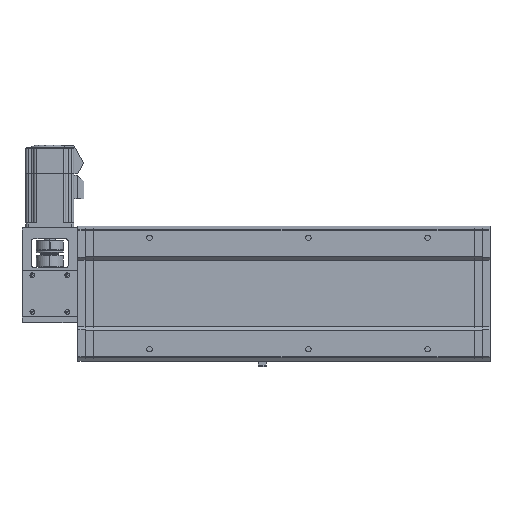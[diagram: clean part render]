
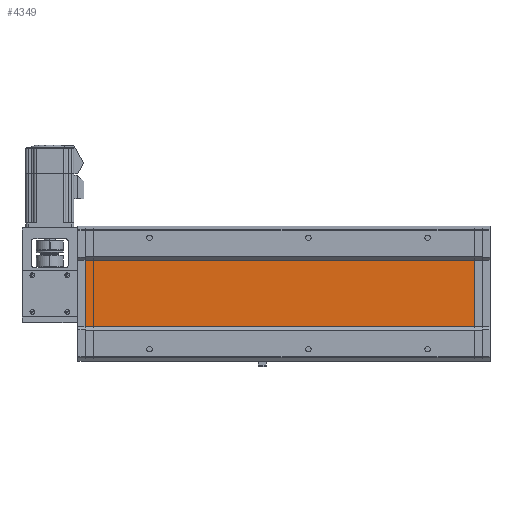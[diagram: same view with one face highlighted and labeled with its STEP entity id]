
A CAD part, front view. The second image highlights one B-rep face of the part: STEP entity #4349.
In plain terms, the highlighted planar face has unit normal (0, -1, 0).
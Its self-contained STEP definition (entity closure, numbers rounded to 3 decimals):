
#399=DIRECTION('',(0.,0.,-1.));
#400=VECTOR('',#399,84.);
#401=CARTESIAN_POINT('',(511.5,4.,42.));
#402=LINE('',#401,#400);
#1115=DIRECTION('',(1.,0.,0.));
#1116=VECTOR('',#1115,499.);
#1117=CARTESIAN_POINT('',(12.5,4.,-42.));
#1118=LINE('',#1117,#1116);
#1119=DIRECTION('',(1.,0.,0.));
#1120=VECTOR('',#1119,499.);
#1121=CARTESIAN_POINT('',(12.5,4.,42.));
#1122=LINE('',#1121,#1120);
#1607=DIRECTION('',(0.,0.,-1.));
#1608=VECTOR('',#1607,84.);
#1609=CARTESIAN_POINT('',(12.5,4.,42.));
#1610=LINE('',#1609,#1608);
#2181=CARTESIAN_POINT('',(12.5,4.,42.));
#2182=VERTEX_POINT('',#2181);
#2183=CARTESIAN_POINT('',(12.5,4.,-42.));
#2184=VERTEX_POINT('',#2183);
#2377=CARTESIAN_POINT('',(511.5,4.,42.));
#2378=VERTEX_POINT('',#2377);
#2379=CARTESIAN_POINT('',(511.5,4.,-42.));
#2380=VERTEX_POINT('',#2379);
#4336=CARTESIAN_POINT('',(260.,4.,0.));
#4337=DIRECTION('',(0.,1.,0.));
#4338=DIRECTION('',(0.,0.,1.));
#4339=AXIS2_PLACEMENT_3D('',#4336,#4337,#4338);
#4340=PLANE('',#4339);
#4342=ORIENTED_EDGE('',*,*,#4341,.T.);
#4343=ORIENTED_EDGE('',*,*,#3513,.T.);
#4344=ORIENTED_EDGE('',*,*,#4327,.F.);
#4346=ORIENTED_EDGE('',*,*,#4345,.F.);
#4347=EDGE_LOOP('',(#4342,#4343,#4344,#4346));
#4348=FACE_OUTER_BOUND('',#4347,.F.);
#3513=EDGE_CURVE('',#2378,#2380,#402,.T.);
#4327=EDGE_CURVE('',#2184,#2380,#1118,.T.);
#4341=EDGE_CURVE('',#2182,#2378,#1122,.T.);
#4345=EDGE_CURVE('',#2182,#2184,#1610,.T.);
#4349=ADVANCED_FACE('',(#4348),#4340,.F.);
